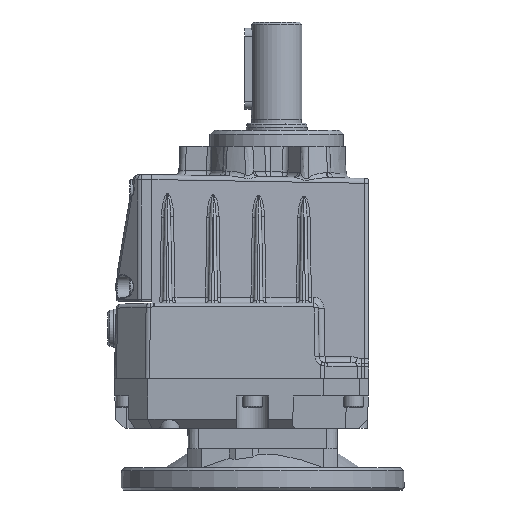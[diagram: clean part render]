
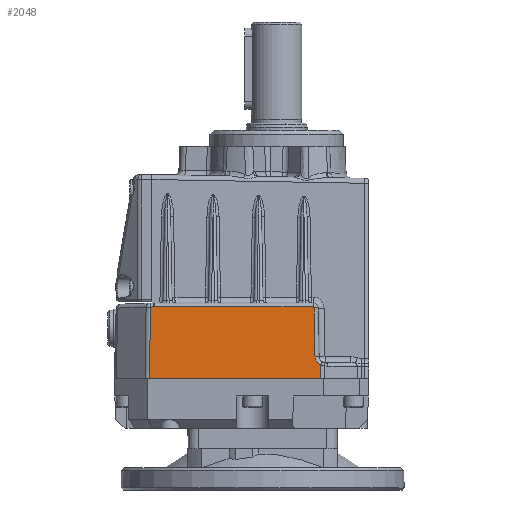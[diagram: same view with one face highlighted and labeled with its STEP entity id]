
A CAD part, left-side view. The second image highlights one B-rep face of the part: STEP entity #2048.
In plain terms, the highlighted planar face has unit normal (-1, 0, 0.026).
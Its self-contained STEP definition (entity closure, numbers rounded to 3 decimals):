
#2048 = ADVANCED_FACE( '', ( #4632 ), #4633, .T. );
#4632 = FACE_OUTER_BOUND( '', #11033, .T. );
#4633 = PLANE( '', #11034 );
#11033 = EDGE_LOOP( '', ( #19147, #19148, #19149, #19150, #19151, #19152, #19153, #19154, #19155 ) );
#11034 = AXIS2_PLACEMENT_3D( '', #19156, #19157, #19158 );
#19147 = ORIENTED_EDGE( '', *, *, #24967, .T. );
#19148 = ORIENTED_EDGE( '', *, *, #23557, .T. );
#19149 = ORIENTED_EDGE( '', *, *, #23219, .F. );
#19150 = ORIENTED_EDGE( '', *, *, #24968, .F. );
#19151 = ORIENTED_EDGE( '', *, *, #24969, .T. );
#19152 = ORIENTED_EDGE( '', *, *, #24950, .F. );
#19153 = ORIENTED_EDGE( '', *, *, #24229, .T. );
#19154 = ORIENTED_EDGE( '', *, *, #22939, .F. );
#19155 = ORIENTED_EDGE( '', *, *, #24970, .F. );
#19156 = CARTESIAN_POINT( '', ( -68.25, 17.15, -115. ) );
#19157 = DIRECTION( '', ( -1., 0., 0.026 ) );
#19158 = DIRECTION( '', ( -0.026, 0., -1. ) );
#22939 = EDGE_CURVE( '', #26254, #26256, #26257, .T. );
#23219 = EDGE_CURVE( '', #26732, #26734, #26735, .T. );
#23557 = EDGE_CURVE( '', #27299, #26734, #27300, .T. );
#24229 = EDGE_CURVE( '', #28340, #26256, #28341, .T. );
#24950 = EDGE_CURVE( '', #28340, #29341, #29342, .T. );
#24967 = EDGE_CURVE( '', #29366, #27299, #29367, .F. );
#24968 = EDGE_CURVE( '', #29368, #26732, #29369, .T. );
#24969 = EDGE_CURVE( '', #29368, #29341, #29370, .T. );
#24970 = EDGE_CURVE( '', #29366, #26254, #29371, .T. );
#26254 = VERTEX_POINT( '', #31711 );
#26256 = VERTEX_POINT( '', #31713 );
#26257 = LINE( '', #31714, #31715 );
#26732 = VERTEX_POINT( '', #32958 );
#26734 = VERTEX_POINT( '', #32965 );
#26735 = B_SPLINE_CURVE_WITH_KNOTS( '', 3, ( #32966, #32967, #32968, #32969, #32970, #32971, #32972, #32973, #32974, #32975, #32976, #32977, #32978, #32979, #32980, #32981 ), .UNSPECIFIED., .F., .F., ( 4, 1, 1, 1, 1, 1, 1, 1, 1, 1, 1, 1, 1, 4 ), ( 0., 0.027, 0.075, 0.143, 0.218, 0.286, 0.429, 0.571, 0.702, 0.786, 0.832, 0.893, 0.956, 1. ), .UNSPECIFIED. );
#27299 = VERTEX_POINT( '', #34673 );
#27300 = LINE( '', #34674, #34675 );
#28340 = VERTEX_POINT( '', #37896 );
#28341 = ELLIPSE( '', #37897, 8.003, 8. );
#29341 = VERTEX_POINT( '', #40661 );
#29342 = LINE( '', #40662, #40663 );
#29366 = VERTEX_POINT( '', #40711 );
#29367 = LINE( '', #40712, #40713 );
#29368 = VERTEX_POINT( '', #40714 );
#29369 = LINE( '', #40715, #40716 );
#29370 = B_SPLINE_CURVE_WITH_KNOTS( '', 2, ( #40717, #40718, #40719, #40720, #40721, #40722, #40723, #40724, #40725 ), .UNSPECIFIED., .F., .F., ( 3, 2, 2, 2, 3 ), ( 0., 0.25, 0.5, 0.75, 1. ), .UNSPECIFIED. );
#29371 = LINE( '', #40726, #40727 );
#31711 = CARTESIAN_POINT( '', ( -67.321, 62.503, -79.512 ) );
#31713 = CARTESIAN_POINT( '', ( -67.319, 60.805, -79.453 ) );
#31714 = CARTESIAN_POINT( '', ( -67.321, 62.414, -79.509 ) );
#31715 = VECTOR( '', #43436, 1000. );
#32958 = CARTESIAN_POINT( '', ( -67.963, -18.949, -104.035 ) );
#32965 = CARTESIAN_POINT( '', ( -68.077, -21.656, -108.391 ) );
#32966 = CARTESIAN_POINT( '', ( -67.963, -18.949, -104.035 ) );
#32967 = CARTESIAN_POINT( '', ( -67.964, -18.95, -104.084 ) );
#32968 = CARTESIAN_POINT( '', ( -67.968, -18.954, -104.218 ) );
#32969 = CARTESIAN_POINT( '', ( -67.974, -18.973, -104.473 ) );
#32970 = CARTESIAN_POINT( '', ( -67.983, -19.018, -104.813 ) );
#32971 = CARTESIAN_POINT( '', ( -67.993, -19.098, -105.184 ) );
#32972 = CARTESIAN_POINT( '', ( -68.006, -19.244, -105.676 ) );
#32973 = CARTESIAN_POINT( '', ( -68.021, -19.493, -106.262 ) );
#32974 = CARTESIAN_POINT( '', ( -68.038, -19.889, -106.899 ) );
#32975 = CARTESIAN_POINT( '', ( -68.051, -20.305, -107.389 ) );
#32976 = CARTESIAN_POINT( '', ( -68.059, -20.647, -107.708 ) );
#32977 = CARTESIAN_POINT( '', ( -68.065, -20.913, -107.924 ) );
#32978 = CARTESIAN_POINT( '', ( -68.069, -21.161, -108.103 ) );
#32979 = CARTESIAN_POINT( '', ( -68.074, -21.417, -108.264 ) );
#32980 = CARTESIAN_POINT( '', ( -68.076, -21.587, -108.354 ) );
#32981 = CARTESIAN_POINT( '', ( -68.077, -21.656, -108.391 ) );
#34673 = CARTESIAN_POINT( '', ( -68.25, -21.728, -115. ) );
#34674 = CARTESIAN_POINT( '', ( -68.239, -21.723, -114.579 ) );
#34675 = VECTOR( '', #44099, 1000. );
#37896 = CARTESIAN_POINT( '', ( -67.319, 60.525, -79.448 ) );
#37897 = AXIS2_PLACEMENT_3D( '', #44666, #44667, #44668 );
#40661 = CARTESIAN_POINT( '', ( -67.319, -18.028, -79.448 ) );
#40662 = CARTESIAN_POINT( '', ( -67.319, 60.525, -79.448 ) );
#40663 = VECTOR( '', #45305, 1000. );
#40711 = CARTESIAN_POINT( '', ( -68.25, 62.888, -115. ) );
#40712 = CARTESIAN_POINT( '', ( -68.25, 17.15, -115. ) );
#40713 = VECTOR( '', #45322, 1000. );
#40714 = CARTESIAN_POINT( '', ( -67.332, -18.528, -79.939 ) );
#40715 = CARTESIAN_POINT( '', ( -67.333, -18.529, -79.991 ) );
#40716 = VECTOR( '', #45323, 1000. );
#40717 = CARTESIAN_POINT( '', ( -67.332, -18.528, -79.939 ) );
#40718 = CARTESIAN_POINT( '', ( -67.329, -18.526, -79.84 ) );
#40719 = CARTESIAN_POINT( '', ( -67.327, -18.488, -79.75 ) );
#40720 = CARTESIAN_POINT( '', ( -67.325, -18.449, -79.66 ) );
#40721 = CARTESIAN_POINT( '', ( -67.323, -18.379, -79.591 ) );
#40722 = CARTESIAN_POINT( '', ( -67.321, -18.309, -79.522 ) );
#40723 = CARTESIAN_POINT( '', ( -67.32, -18.218, -79.485 ) );
#40724 = CARTESIAN_POINT( '', ( -67.319, -18.127, -79.448 ) );
#40725 = CARTESIAN_POINT( '', ( -67.319, -18.028, -79.448 ) );
#40726 = CARTESIAN_POINT( '', ( -68.237, 62.882, -114.504 ) );
#40727 = VECTOR( '', #45324, 1000. );
#43436 = DIRECTION( '', ( 0.001, -0.999, 0.035 ) );
#44099 = DIRECTION( '', ( 0.026, 0.011, 1. ) );
#44666 = CARTESIAN_POINT( '', ( -67.529, 60.525, -87.448 ) );
#44667 = DIRECTION( '', ( -1., 0., 0.026 ) );
#44668 = DIRECTION( '', ( -0.026, 0., -1. ) );
#45305 = DIRECTION( '', ( 0., -1., 0. ) );
#45322 = DIRECTION( '', ( 0., 1., 0. ) );
#45323 = DIRECTION( '', ( -0.026, -0.017, -1. ) );
#45324 = DIRECTION( '', ( 0.026, -0.011, 1. ) );
